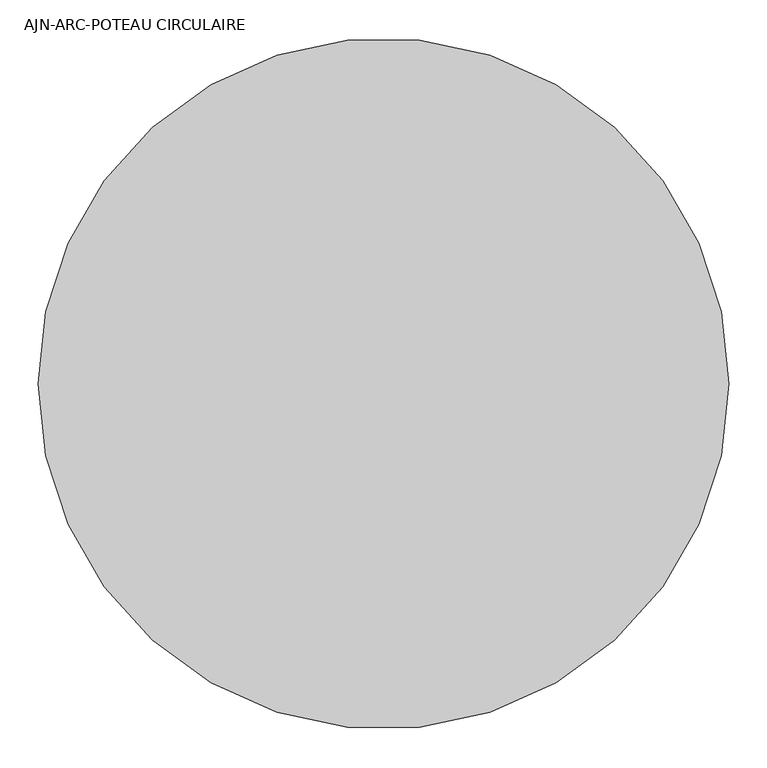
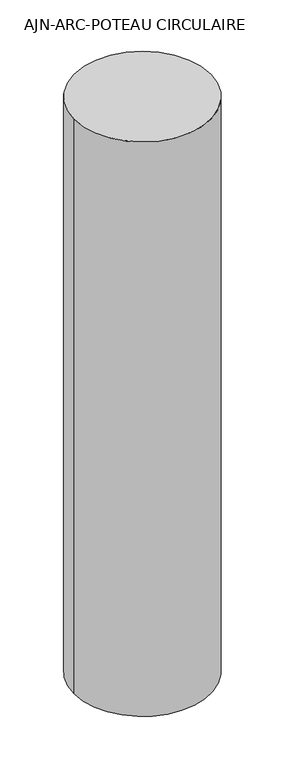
"""IFC4 building model written with IfcOpenShell, lengths in millimetres: column geometry, AJN-ARC-POTEAU CIRCULAIRE : ø90."""

from ifc_helpers import new_model, si_unit, point, frame, origin, origin_2d, place, context, project, spatial, circle_curve, trimmed, segment, composite_curve, outline, extrude, source, transform, mapped, element, save


def ajn_arc_poteau_circulaire_86033a3a(model_context):
    return source(origin(), model_context, "Body", "SweptSolid", [
        extrude(outline(composite_curve([segment(trimmed(circle_curve(origin_2d(), 450.0), [point((-450.0, 0.0))], [point((450.0, 0.0))], False, "CARTESIAN"), True, "CONTINUOUS"), segment(trimmed(circle_curve(origin_2d(), 450.0), [point((450.0, 0.0))], [point((-450.0, 0.0))], False, "CARTESIAN"), True, "CONTINUOUS")], self_intersect=False)), frame((0.0, 0.0, 5999.9999686), z_axis=(0.0, 0.0, 1.0), x_axis=(1.0, 0.0, 0.0)), (0.0, 0.0, 1.0), 4000.0),
    ])


if __name__ == "__main__":
    model = new_model("IFC4")
    model_context = context("Model", 3, world=origin())
    ifc_project = project(units=[si_unit("LENGTHUNIT", "METRE", prefix="MILLI")], contexts=[model_context])
    site = spatial("IfcSite", under=ifc_project)
    building = spatial("IfcBuilding", under=site)
    placement = place(None, origin())
    ajn_arc_poteau_circulaire_shape = ajn_arc_poteau_circulaire_86033a3a(model_context)
    element("IfcColumn", 1, ObjectType="AJN-ARC-POTEAU CIRCULAIRE : ø90", at=placement, inside=building, context=model_context, shape_type="MappedRepresentation", body=[
        mapped(ajn_arc_poteau_circulaire_shape, transform((0.0, 0.0, 0.0), x_axis=(1.0, 0.0, 0.0), y_axis=(0.0, 1.0, 0.0), z_axis=(0.0, 0.0, 1.0))),
    ])
    save(model, "model.ifc")
